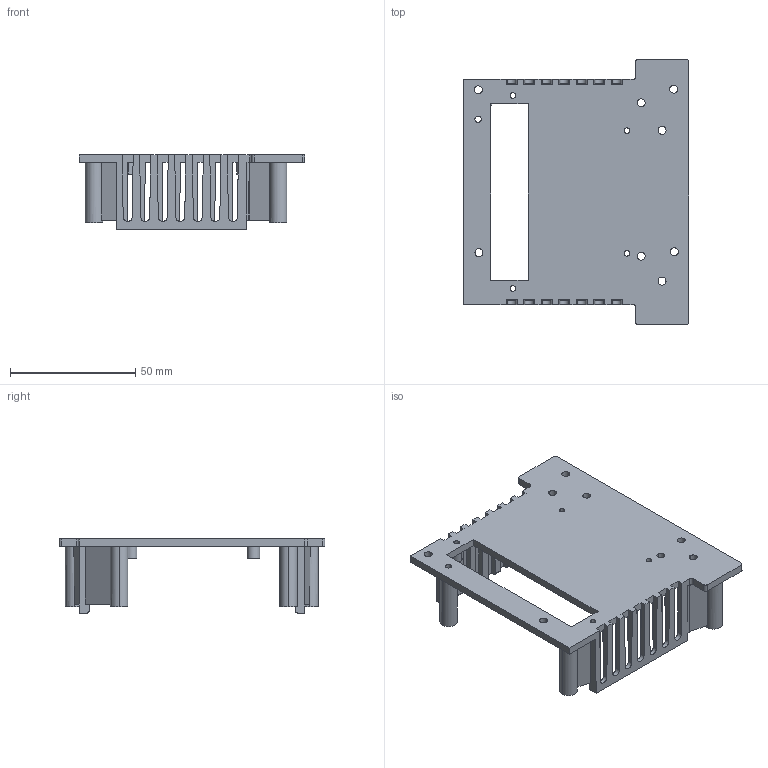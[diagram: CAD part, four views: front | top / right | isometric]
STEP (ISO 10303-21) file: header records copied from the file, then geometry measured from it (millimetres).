
FILE_DESCRIPTION((''),'2;1');
FILE_NAME('BASEBOARDCASE_6','2025-07-12T10:24:53',('Administrator'),(''),'CREO PARAMETRIC BY PTC INC, 2022073','CREO PARAMETRIC BY PTC INC, 2022073','');
FILE_SCHEMA(('CONFIG_CONTROL_DESIGN'));
Length unit declared in the file: millimetre
Products named in the file (1): BASEBOARDCASE_6
Bounding box: 90 x 106 x 29.6 mm (x, y, z)
Volume: 32196.9 mm3; surface area: 28759.9 mm2
Topology: 1 solids, 1 shells, 248 faces, 800 edges, 532 vertices
Faces by surface type: plane 152, cylinder 88, cone 8
Entity records: 9184 total; most frequent: CARTESIAN_POINT 2019, ORIENTED_EDGE 1600, DIRECTION 1360, EDGE_CURVE 800, VECTOR 574, LINE 574, VERTEX_POINT 532, AXIS2_PLACEMENT_3D 393
